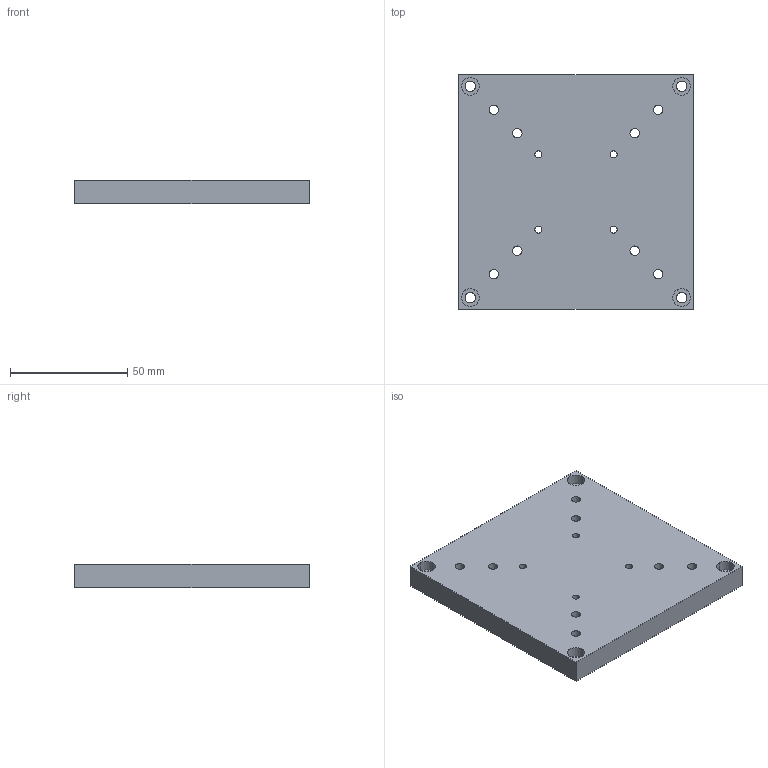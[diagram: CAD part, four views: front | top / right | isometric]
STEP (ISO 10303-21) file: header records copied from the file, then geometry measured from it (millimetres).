
FILE_DESCRIPTION( (''), '2;1');
FILE_NAME ('SPK-10.stp','2020-07-22T08:44:25',(''),(''),'spGate 15.6.6','','');
FILE_SCHEMA (('AUTOMOTIVE_DESIGN'));
Length unit declared in the file: millimetre
Products named in the file (2): Assembly; SPK-10-prt0
Assembly tree (1 placements, depth 2):
  Assembly
    SPK-10-prt0
Bounding box: 100 x 100 x 10 mm (x, y, z)
Volume: 97566.8 mm3; surface area: 25732.6 mm2
Topology: 1 solids, 1 shells, 50 faces, 132 edges, 88 vertices
Faces by surface type: cylinder 40, plane 10
Entity records: 2688 total; most frequent: CARTESIAN_POINT 314, DIRECTION 280, ORIENTED_EDGE 264, COLOUR_RGB 183, PRESENTATION_STYLE_ASSIGNMENT 183, STYLED_ITEM 183, AXIS2_PLACEMENT_3D 134, EDGE_CURVE 132
